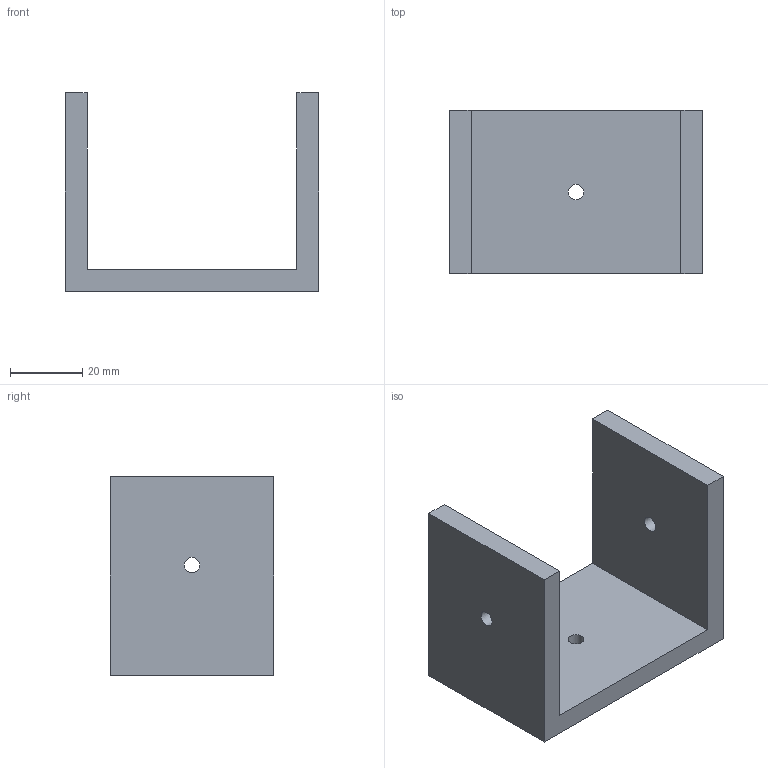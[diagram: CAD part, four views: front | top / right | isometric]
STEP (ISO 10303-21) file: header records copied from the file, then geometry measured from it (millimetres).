
FILE_DESCRIPTION(('Mechanical CAD reference from nasji.com'),'2;1');
FILE_NAME('NASJI.step','',(''),(''),'','NASJI distribution','');
FILE_SCHEMA(('AUTOMOTIVE_DESIGN { 1 0 10303 214 1 1 1 1 }'));
Length unit declared in the file: millimetre
Products named in the file (1): Open CASCADE STEP translator 7.8 155
Bounding box: 70 x 45.09 x 54.9 mm (x, y, z)
Volume: 45135.2 mm3; surface area: 17842.9 mm2
Topology: 1 solids, 1 shells, 13 faces, 33 edges, 22 vertices
Faces by surface type: plane 10, cylinder 3
Full cylindrical faces by diameter (mm): 4.3 x3
Entity records: 852 total; most frequent: CARTESIAN_POINT 163, DIRECTION 125, LINE 83, VECTOR 83, ORIENTED_EDGE 66, PCURVE 66, DEFINITIONAL_REPRESENTATION 66, EDGE_CURVE 33
